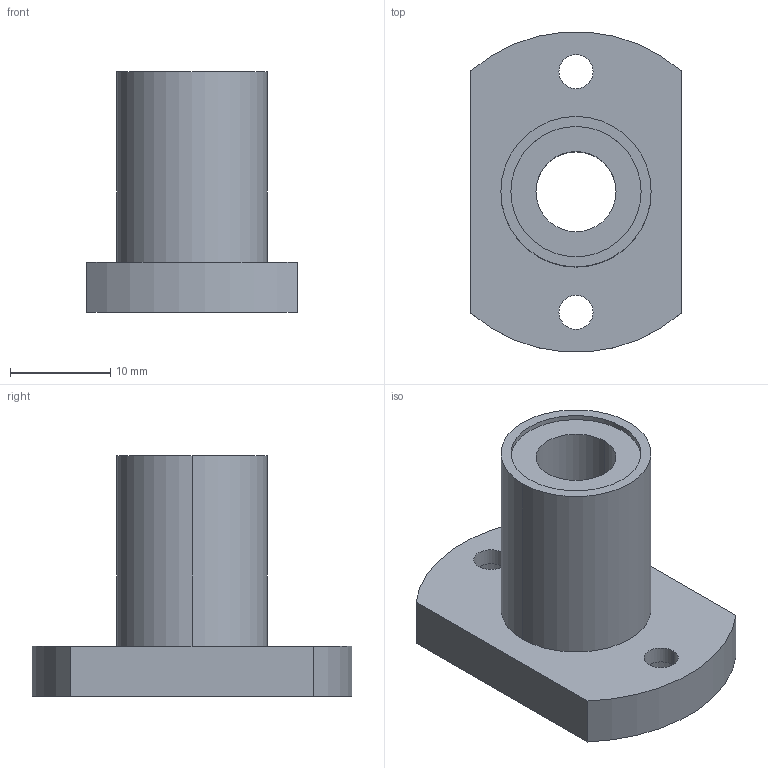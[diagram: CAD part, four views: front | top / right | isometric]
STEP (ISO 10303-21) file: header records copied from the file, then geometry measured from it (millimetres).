
FILE_DESCRIPTION((''),'2;1');
FILE_NAME('C:\Documents and Settings\ｿﾀﾀ蠑ｷ1\ｹﾙﾅﾁ ﾈｭｸ饅\ｺﾎﾇｰﾆﾄﾀﾏ\ﾁｦﾇｰ\LMH__UU\LMH8UU.stp','2005-06-15T09:57:20',('ｿﾀﾀ蠑ｷ1'),(''),'Autodesk Inventor 9','Autodesk Inventor 9','');
FILE_SCHEMA(('AUTOMOTIVE_DESIGN { 1 0 10303 214 1 1 1 1 }'));
Length unit declared in the file: millimetre
Products named in the file (1): LMH__
Bounding box: 21 x 31.9 x 24 mm (x, y, z)
Volume: 4855.8 mm3; surface area: 3270.1 mm2
Topology: 1 solids, 1 shells, 30 faces, 66 edges, 44 vertices
Faces by surface type: cylinder 12, bspline 10, plane 8
Entity records: 989 total; most frequent: CARTESIAN_POINT 283, DIRECTION 148, ORIENTED_EDGE 132, EDGE_CURVE 66, AXIS2_PLACEMENT_3D 61, VERTEX_POINT 44, EDGE_LOOP 42, CIRCLE 40
